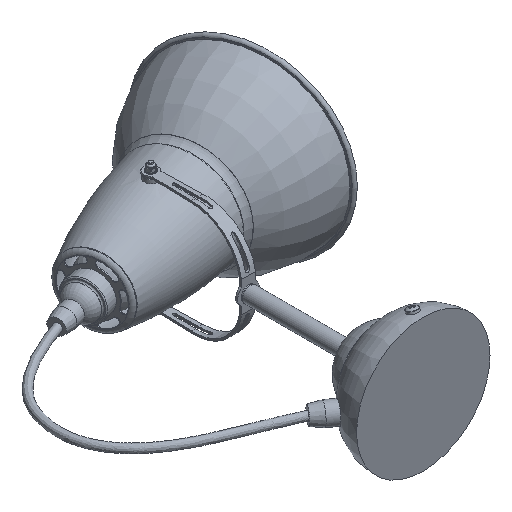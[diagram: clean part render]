
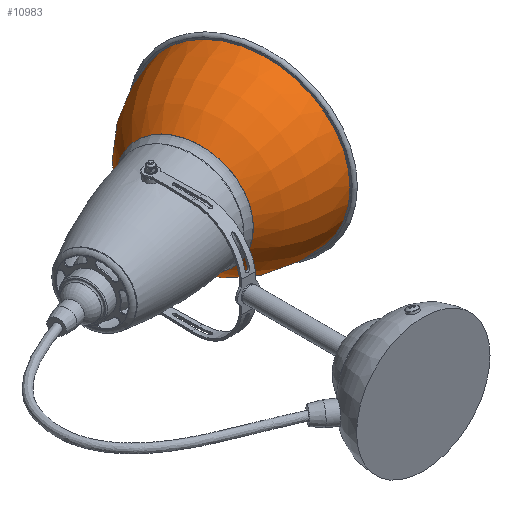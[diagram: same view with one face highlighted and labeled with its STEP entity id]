
A CAD part, isometric view. The second image highlights one B-rep face of the part: STEP entity #10983.
In plain terms, the highlighted toroidal (fillet/blend) face has major radius 26.633 mm and minor radius 93.956 mm.
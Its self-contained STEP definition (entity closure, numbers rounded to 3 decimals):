
#10 = ORIENTED_EDGE ( 'NONE', *, *, #10840, .T. ) ;
#537 = CARTESIAN_POINT ( 'NONE',  ( 55.607, 158.916, 20.004 ) ) ;
#890 = CIRCLE ( 'NONE', #17415, 42.592 ) ;
#1272 = EDGE_LOOP ( 'NONE', ( #10 ) ) ;
#1970 = DIRECTION ( 'NONE',  ( -0.241, 0.971, 0. ) ) ;
#2441 = FACE_OUTER_BOUND ( 'NONE', #14500, .T. ) ;
#3397 = AXIS2_PLACEMENT_3D ( 'NONE', #537, #10487, #1970 ) ;
#3974 = CARTESIAN_POINT ( 'NONE',  ( -12.727, 185.834, 20.004 ) ) ;
#5271 = DIRECTION ( 'NONE',  ( -0.241, 0.971, 0. ) ) ;
#6403 = CARTESIAN_POINT ( 'NONE',  ( -2.463, 144.497, 20.004 ) ) ;
#7511 = VERTEX_POINT ( 'NONE', #12564 ) ;
#7818 = DIRECTION ( 'NONE',  ( -0.241, 0.971, 0. ) ) ;
#8215 = TOROIDAL_SURFACE ( 'NONE', #17069, -26.633, 93.956 ) ;
#10487 = DIRECTION ( 'NONE',  ( 0.971, 0.241, 0. ) ) ;
#10840 = EDGE_CURVE ( 'NONE', #15979, #15979, #890, .T. ) ;
#10983 = ADVANCED_FACE ( 'Defeatured_0_6', ( #2441, #13339 ), #8215, .T. ) ;
#12564 = CARTESIAN_POINT ( 'NONE',  ( 39.401, 224.184, 20.004 ) ) ;
#12838 = ORIENTED_EDGE ( 'NONE', *, *, #13006, .F. ) ;
#13006 = EDGE_CURVE ( 'NONE', #7511, #7511, #14209, .T. ) ;
#13339 = FACE_OUTER_BOUND ( 'NONE', #1272, .T. ) ;
#13809 = DIRECTION ( 'NONE',  ( 0.971, 0.241, 0. ) ) ;
#14209 = CIRCLE ( 'NONE', #3397, 67.25 ) ;
#14500 = EDGE_LOOP ( 'NONE', ( #12838 ) ) ;
#15979 = VERTEX_POINT ( 'NONE', #3974 ) ;
#16351 = DIRECTION ( 'NONE',  ( 0.971, 0.241, 0. ) ) ;
#16583 = CARTESIAN_POINT ( 'NONE',  ( 59.19, 159.806, 20.004 ) ) ;
#17069 = AXIS2_PLACEMENT_3D ( 'NONE', #16583, #13809, #5271 ) ;
#17415 = AXIS2_PLACEMENT_3D ( 'NONE', #6403, #16351, #7818 ) ;
